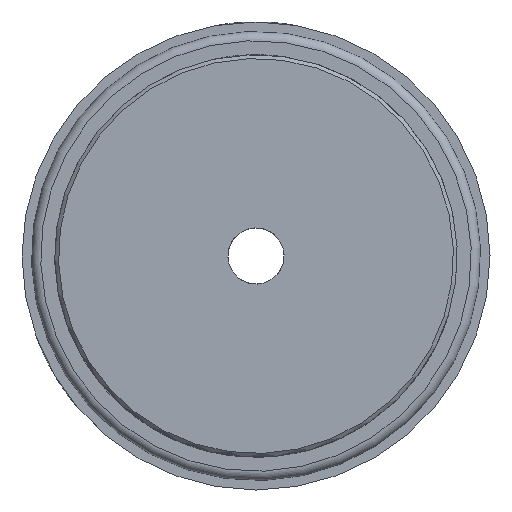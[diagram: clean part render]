
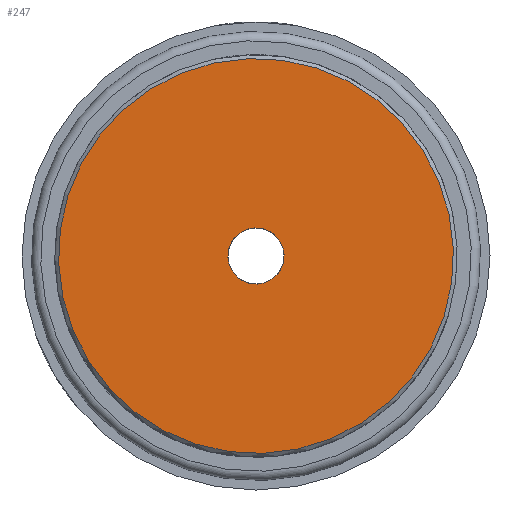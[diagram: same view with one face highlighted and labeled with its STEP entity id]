
A CAD part, left-side view. The second image highlights one B-rep face of the part: STEP entity #247.
In plain terms, the highlighted planar face has unit normal (-1, 0, 0).
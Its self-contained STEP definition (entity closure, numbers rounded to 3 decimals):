
#247 = ADVANCED_FACE( 'NONE', ( #566, #567 ), #568, .F. );
#566 = FACE_OUTER_BOUND( '', #1072, .T. );
#567 = FACE_BOUND( '', #1073, .T. );
#568 = PLANE( '', #1074 );
#1072 = EDGE_LOOP( '', ( #1591 ) );
#1073 = EDGE_LOOP( '', ( #1592 ) );
#1074 = AXIS2_PLACEMENT_3D( '', #1593, #1594, #1595 );
#1591 = ORIENTED_EDGE( '', *, *, #2613, .T. );
#1592 = ORIENTED_EDGE( '', *, *, #2614, .F. );
#1593 = CARTESIAN_POINT( '', ( 0., 1.5, 0. ) );
#1594 = DIRECTION( '', ( 1., 0., 0. ) );
#1595 = DIRECTION( '', ( 0., 1., 0. ) );
#2613 = EDGE_CURVE( 'NONE', #3022, #3022, #3023, .T. );
#2614 = EDGE_CURVE( 'NONE', #3024, #3024, #3025, .T. );
#3022 = VERTEX_POINT( '', #3707 );
#3023 = CIRCLE( '', #3708, 10.55 );
#3024 = VERTEX_POINT( '', #3709 );
#3025 = CIRCLE( '', #3710, 1.5 );
#3707 = CARTESIAN_POINT( '', ( 0., 0., -10.55 ) );
#3708 = AXIS2_PLACEMENT_3D( '', #4600, #4601, #4602 );
#3709 = CARTESIAN_POINT( '', ( 0., 0., 1.5 ) );
#3710 = AXIS2_PLACEMENT_3D( '', #4603, #4604, #4605 );
#4600 = CARTESIAN_POINT( '', ( 0., 0., 0. ) );
#4601 = DIRECTION( '', ( -1., 0., 0. ) );
#4602 = DIRECTION( '', ( 0., 0., -1. ) );
#4603 = CARTESIAN_POINT( '', ( 0., 0., 0. ) );
#4604 = DIRECTION( '', ( -1., 0., 0. ) );
#4605 = DIRECTION( '', ( 0., 0., 1. ) );
